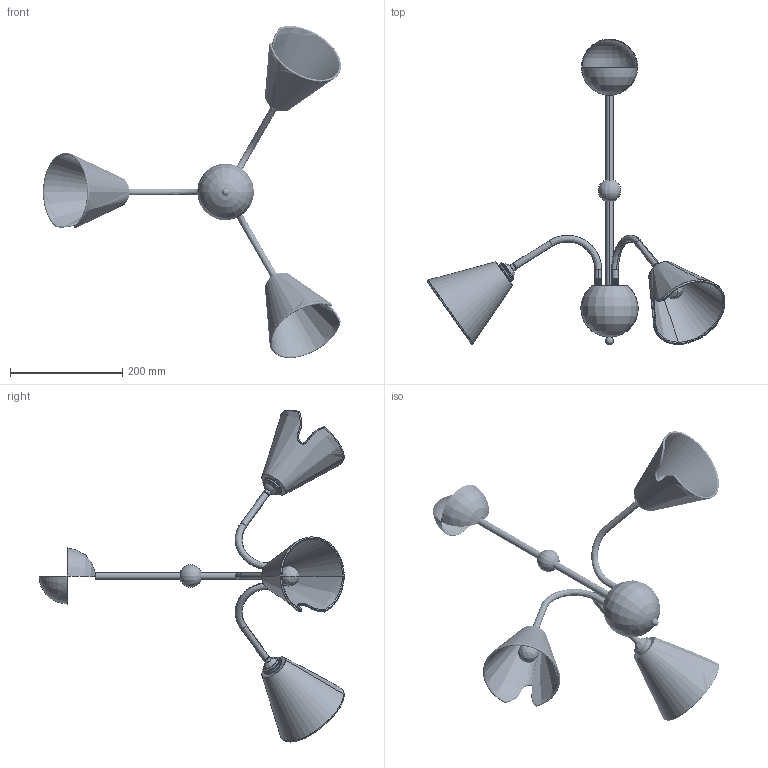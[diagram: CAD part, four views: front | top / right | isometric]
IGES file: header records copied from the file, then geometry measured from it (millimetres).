
Start section: SolidWorks IGES file using analytic representation for surfaces
Global section: file name: F:\燠隴矨\3D\2025-12\Nalia Amber Chandelier-3heads.IGS,15; native system: HSolidWorks 2022; preprocessor: SolidWorks 2022; author: MyPC; date: 251230.142210; units: millimetre
Bounding box: 530.97 x 545 x 591.72 mm (x, y, z)
Surface area: 416101.8 mm2 (no closed solid volume)
Topology: 0 solids, 0 shells, 541 faces, 10208 edges, 10175 vertices
Faces by surface type: revolution 370, bspline 171
